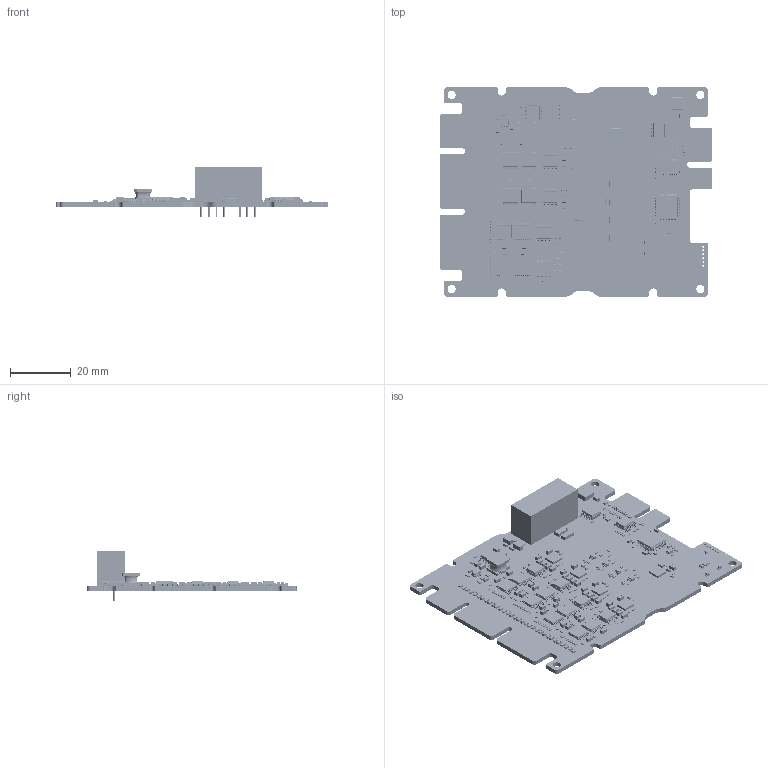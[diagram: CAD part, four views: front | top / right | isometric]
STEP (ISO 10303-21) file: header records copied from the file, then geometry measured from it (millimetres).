
FILE_DESCRIPTION(('KiCad electronic assembly'),'2;1');
FILE_NAME('TB16-002.step','2026-10-12T16:11:32',('Pcbnew'),('Kicad'), 'Open CASCADE STEP processor 7.9','KiCad to STEP converter','Unknown' );
FILE_SCHEMA(('AUTOMOTIVE_DESIGN { 1 0 10303 214 1 1 1 1 }'));
Length unit declared in the file: millimetre
Products named in the file (29): TB16-002 1; L_0402_1005Metric; D_0603_1608Metric; R_0603_1608Metric; C_0402_1005Metric; C_0805_2012Metric; R_0402_1005Metric; LQFP-48_7x7mm_P0.5mm; C_0603_1608Metric; TSSOP-16_4.4x5mm_P0.65mm; D_SOD-523; Texas_RSA_VQFN-16-1EP_4x4mm_P0.65mm_EP2.7x2.7mm; SOT-363_SC-70-6; SOT-23-5; C_1808_4520Metric; R_0805_2012Metric; C_1206_3216Metric; SOT-583-8; SOIC-8-1EP_3.9x4.9mm_P1.27mm_EP2.41x3.81mm; SOT-553; L_Changjiang_FNR4018S; SOIC-8_3.9x4.9mm_P1.27mm; Converter_DCDC_TRACO_TEC2-12xxWI_24xxWI_48xxWI_THT; LED_0603_1608Metric; L_TDK_VLS6045EX_VLS6045AF; Texas_RGE0024C_VQFN-24-1EP_4x4mm_P0.5mm_EP2.1x2.1mm; Crystal_SMD_2016-4Pin_2.0x1.6mm; SSOP-16_3.9x4.9mm_P0.635mm; AD0381-ai-10v_PCB
Assembly tree (296 placements, depth 2):
  TB16-002 1
    L_0402_1005Metric  x8
    D_0603_1608Metric  x32
    R_0603_1608Metric  x4
    C_0402_1005Metric  x28
    C_0805_2012Metric  x46
    R_0402_1005Metric  x120
    LQFP-48_7x7mm_P0.5mm
    C_0603_1608Metric  x11
    TSSOP-16_4.4x5mm_P0.65mm  x8
    D_SOD-523  x6
    Texas_RSA_VQFN-16-1EP_4x4mm_P0.65mm_EP2.7x2.7mm  x4
    SOT-363_SC-70-6  x4
    SOT-23-5
    C_1808_4520Metric  x2
    R_0805_2012Metric  x2
    C_1206_3216Metric  x2
    SOT-583-8
    SOIC-8-1EP_3.9x4.9mm_P1.27mm_EP2.41x3.81mm
    SOT-553
    L_Changjiang_FNR4018S
    SOIC-8_3.9x4.9mm_P1.27mm  x5
    Converter_DCDC_TRACO_TEC2-12xxWI_24xxWI_48xxWI_THT
    LED_0603_1608Metric  x2
    L_TDK_VLS6045EX_VLS6045AF
    Texas_RGE0024C_VQFN-24-1EP_4x4mm_P0.5mm_EP2.1x2.1mm
    Crystal_SMD_2016-4Pin_2.0x1.6mm
    SSOP-16_3.9x4.9mm_P0.635mm
    AD0381-ai-10v_PCB
Bounding box: 90 x 69 x 16.7 mm (x, y, z)
Volume: 12057.4 mm3; surface area: 16987 mm2
Topology: 304 solids, 304 shells, 13166 faces, 34867 edges, 22582 vertices
Faces by surface type: plane 8876, cylinder 3864, bspline 372, torus 50, sphere 4
Full cylindrical faces by diameter (mm): 0.1 x1, 0.25 x1, 0.4 x5, 0.58 x7, 0.65 x6, 1 x7, 2.7 x4
Entity records: 121292 total; most frequent: CARTESIAN_POINT 19937, ORIENTED_EDGE 15764, DIRECTION 15346, EDGE_CURVE 7884, LINE 6164, VECTOR 6164, VERTEX_POINT 5022, AXIS2_PLACEMENT_3D 4591
